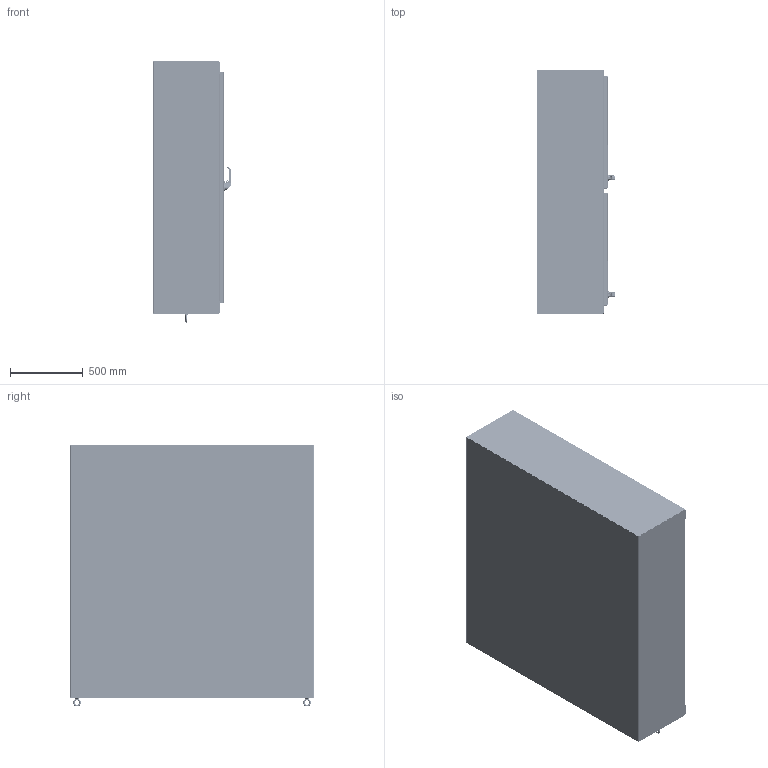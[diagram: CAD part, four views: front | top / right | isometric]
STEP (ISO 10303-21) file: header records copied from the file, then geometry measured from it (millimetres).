
FILE_DESCRIPTION((''),'2;1');
FILE_NAME('MODEL-462_ASM','2026-04-27T14:52:33',('andrew.knowlton'),('SAGINAW CONTROL & ENGINEERING'),'CREO PARAMETRIC BY PTC INC, 2021284','CREO PARAMETRIC BY PTC INC, 2021284','');
FILE_SCHEMA(('AUTOMOTIVE_DESIGN { 1 0 10303 214 1 1 1 1 }'));
Length unit declared in the file: inch
Products named in the file (122): MODEL-462-L-SD; MODEL-462-TP; MODEL-462-R-SD; MODEL-462-BTM; MODEL-462-RH-DR; 100837; 111267; 100882; 100953_SCREW_MTG; 100953_PADLOCK_CATCH; 100953_SCREW_LARGE; 100953_INSERT_SHAFT; 100953_INSERT_PCH; 100953_GASKET; 100953_O-RING; 100953_BASE; 100953_SPRING; 100953_HANDLE; 100953_CAM_SHAFT; 100953_HANDLE_ASM; 100953_CAM_ADAPTER; 100953_EARTH_NUT; 100953_FLANGE_NUT; 100953_CAM_NUT; 100953_CP_INSERT; 100953_SPRING_CAM; 100953_TORSION_SPRING; 100953_SCREW_INSERT; 100953_ASM; 102237; 100030; 102237_ASM; MODEL-462-ROD-RH-UPR; 128146; 128145; 128144; 102482; MODEL-462-ROD-RH-UPR_ASM; 128143; 112504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
Assembly tree (258 placements, depth 5):
  MODEL-462_ASM
    MODEL-462-L-SD
    MODEL-462-TP
    MODEL-462-R-SD
    MODEL-462-BTM
    MODEL-462-RH-DOOR-ASSY_ASM
      MODEL-462-RH-DR
      100837  x7
      111267
      100882  x12
      100953_ASM
        100953_SCREW_MTG
        100953_PADLOCK_CATCH
        100953_SCREW_LARGE  x2
        100953_INSERT_SHAFT
        100953_INSERT_PCH
        100953_GASKET
        100953_O-RING
        100953_BASE
        100953_SPRING
        100953_HANDLE_ASM
          100953_HANDLE
          100953_CAM_SHAFT
        100953_CAM_ADAPTER
        100953_EARTH_NUT
        100953_FLANGE_NUT
        100953_CAM_NUT
        100953_CP_INSERT
        100953_SPRING_CAM
        100953_TORSION_SPRING
        100953_SCREW_INSERT
      102237_ASM
        102237
        100030  x2
      MODEL-462-ROD-RH-UPR_ASM
        MODEL-462-ROD-RH-UPR
        128146
        128145
        128144
        102482  x2
      128143  x2
      112504  x2
      MODEL-462-ROD-RH-LWR_ASM
        MODEL-462-ROD-RH-LWR
        128146
        128145
        128144
        102482  x2
      MODEL-462-PR-GSKT-RH
      128258_ASM  x4
        128258
      126395  x4
      102483  x4
      101383_ASM  x4
        101383
        101383-STUD
      101221  x4
      125597
    MODEL-462-LH-DOOR-ASSY_ASM
      MODEL-462-LH-DR
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Bounding box: 535.27 x 1670.05 x 1788.36 mm (x, y, z)
Volume: 36405198.8 mm3; surface area: 26194877.5 mm2
Topology: 284 solids, 284 shells, 26882 faces, 68010 edges, 41736 vertices
Faces by surface type: plane 9109, cylinder 7070, bspline 5941, torus 2174, cone 1379, sphere 828, extrusion 381
Entity records: 822827 total; most frequent: CARTESIAN_POINT 373398, ORIENTED_EDGE 69532, DIRECTION 63351, PRESENTATION_STYLE_ASSIGNMENT 35575, STYLED_ITEM 35539, CURVE_STYLE 34766, EDGE_CURVE 34766, AXIS2_PLACEMENT_3D 23481
